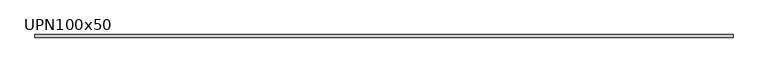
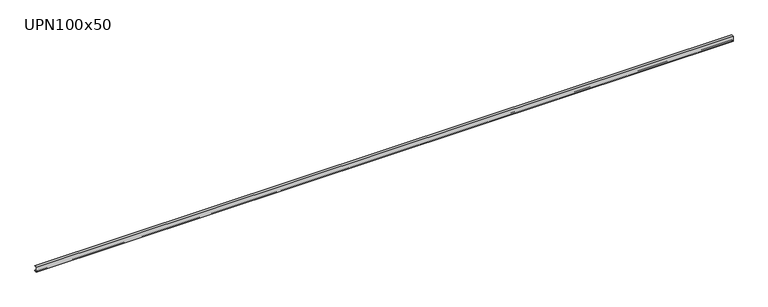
"""IFC4 building model written with IfcOpenShell, lengths in millimetres: beam geometry, M_MC Shapes : UPN100x50."""

from ifc_helpers import new_model, si_unit, point, frame, frame_2d, origin, place, context, project, spatial, polyline, circle_curve, trimmed, segment, composite_curve, outline, extrude, source, transform, mapped, element, save


def upn100x50_3af1e818(model_context):
    return source(origin(), model_context, "Body", "SweptSolid", [
        extrude(outline(composite_curve([segment(polyline([(-10.9, 50.0), (39.1, 50.0), (39.1, 49.0253247)]), True, "CONTINUOUS"), segment(trimmed(circle_curve(frame_2d((35.15, 49.0253247)), 3.95), [point((39.1, 49.0253247))], [point((35.7993773, 45.1290689))], False, "CARTESIAN"), True, "CONTINUOUS"), segment(polyline([(35.7993773, 45.1290689), (0.2512455, 39.2043685)]), True, "CONTINUOUS"), segment(trimmed(circle_curve(frame_2d((1.55, 31.4118569)), 7.9), [point((0.2512455, 39.2043685))], [point((-6.35, 31.4118569))], True, "CARTESIAN"), True, "CONTINUOUS"), segment(polyline([(-6.35, 31.4118569), (-6.35, -31.4118569)]), True, "CONTINUOUS"), segment(trimmed(circle_curve(frame_2d((1.55, -31.4118569)), 7.9), [point((-6.35, -31.4118569))], [point((0.2512455, -39.2043685))], True, "CARTESIAN"), True, "CONTINUOUS"), segment(polyline([(0.2512455, -39.2043685), (35.7993773, -45.1290689)]), True, "CONTINUOUS"), segment(trimmed(circle_curve(frame_2d((35.15, -49.0253247)), 3.95), [point((35.7993773, -45.1290689))], [point((39.1, -49.0253247))], False, "CARTESIAN"), True, "CONTINUOUS"), segment(polyline([(39.1, -49.0253247), (39.1, -50.0), (-10.9, -50.0), (-10.9, 50.0)]), True, "CONTINUOUS")], self_intersect=False)), frame((-6639.95, 0.0, 0.0), z_axis=(1.0, 0.0, 0.0), x_axis=(0.0, 1.0, 0.0)), (0.0, 0.0, 1.0), 13279.9),
    ])


if __name__ == "__main__":
    model = new_model("IFC4")
    model_context = context("Model", 3, world=origin())
    ifc_project = project(units=[si_unit("LENGTHUNIT", "METRE", prefix="MILLI")], contexts=[model_context])
    site = spatial("IfcSite", under=ifc_project)
    building = spatial("IfcBuilding", under=site)
    placement = place(None, origin())
    upn100x50_shape = upn100x50_3af1e818(model_context)
    element("IfcBeam", 1, ObjectType="M_MC Shapes : UPN100x50", at=placement, inside=building, context=model_context, shape_type="MappedRepresentation", body=[
        mapped(upn100x50_shape, transform((0.0, 0.0, 0.0), x_axis=(1.0, 0.0, 0.0), y_axis=(0.0, 1.0, 0.0), z_axis=(0.0, 0.0, 1.0))),
    ])
    save(model, "model.ifc")
